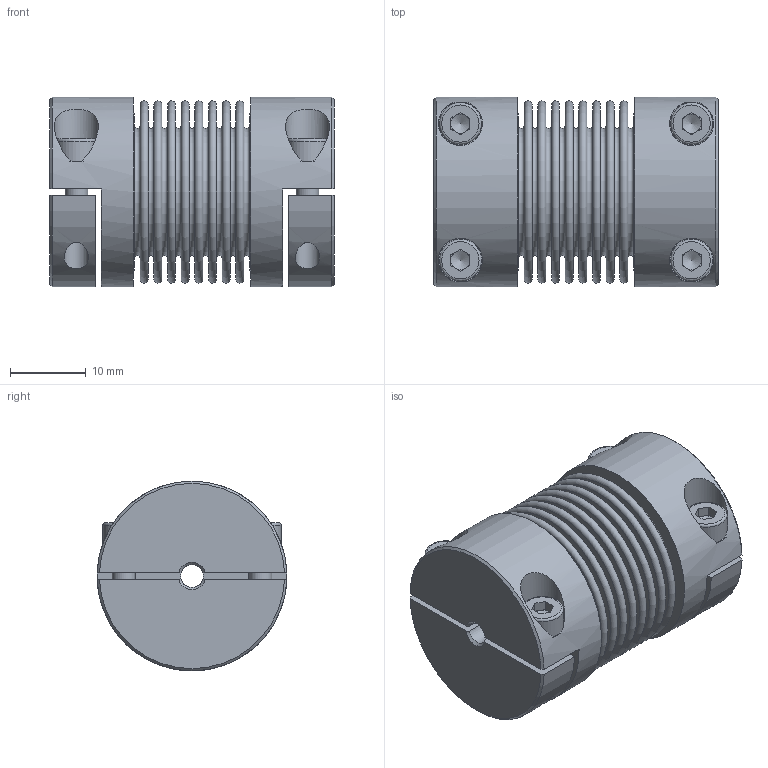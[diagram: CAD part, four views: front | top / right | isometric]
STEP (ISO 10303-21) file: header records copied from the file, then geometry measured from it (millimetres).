
FILE_DESCRIPTION( ( 'Unknown' ), '1' );
FILE_NAME( 'K:/Konstruktion/KB2H/KB2H-20-38.stp', 'Unknown', ( 'Unknown' ), ( 'Unknown' ), 'PSStep 16.0.42', 'Unknown', ' ' );
FILE_SCHEMA( ( 'AUTOMOTIVE_DESIGN { 1 0 10303 214 1 1 1 1 }' ) );
Length unit declared in the file: millimetre
Products named in the file (5): Assem1; KNH-20; Socket Head Cap Screw_DIN_DIN 912 M3 x 10 --- 10N_2; BM20_Standard_0
Assembly tree (9 placements, depth 2):
  Assem1
    KNH-20  x2
    KNH-20  x2
    Socket Head Cap Screw_DIN_DIN 912 M3 x 10 --- 10N_2  x4
    BM20_Standard_0
Bounding box: 37.45 x 25 x 25 mm (x, y, z)
Volume: 10469.3 mm3; surface area: 16675.6 mm2
Topology: 9 solids, 9 shells, 214 faces, 424 edges, 270 vertices
Faces by surface type: plane 120, torus 46, cylinder 32, cone 16
Full cylindrical faces by diameter (mm): 3 x6, 3.2 x8, 5.5 x4, 21 x2, 21.3 x2, 25 x2
Entity records: 4226 total; most frequent: CARTESIAN_POINT 693, DIRECTION 544, ORIENTED_EDGE 338, AXIS2_PLACEMENT_3D 251, EDGE_LOOP 230, FACE_OUTER_BOUND 178, EDGE_CURVE 169, VERTEX_POINT 160
